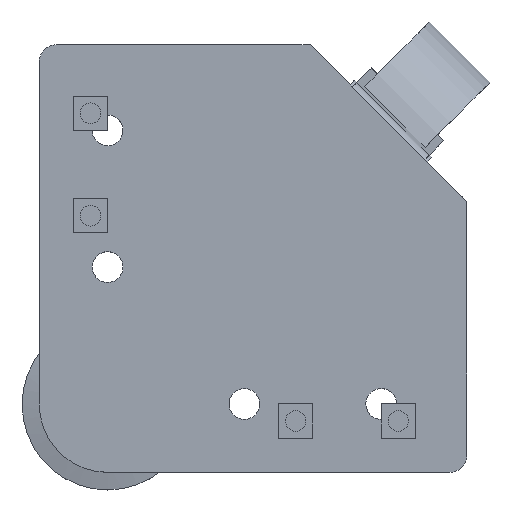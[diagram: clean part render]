
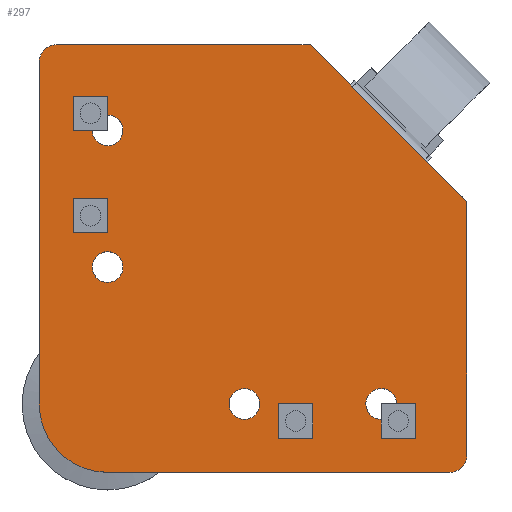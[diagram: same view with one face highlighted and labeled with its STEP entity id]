
A CAD part, top view. The second image highlights one B-rep face of the part: STEP entity #297.
In plain terms, the highlighted planar face has unit normal (0, 0, 1).
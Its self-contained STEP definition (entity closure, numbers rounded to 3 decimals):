
#114=CARTESIAN_POINT('',(86.59,0.79,0.));
#115=VERTEX_POINT('',#114);
#131=CARTESIAN_POINT('',(89.21,3.41,0.));
#132=VERTEX_POINT('',#131);
#139=CARTESIAN_POINT('',(85.,5.,0.0));
#140=DIRECTION('',(0.0,0.0,-1.0));
#141=DIRECTION('',(0.0,1.0,0.0));
#142=AXIS2_PLACEMENT_3D('',#139,#140,#141);
#143=CIRCLE('',#142,4.5);
#144=EDGE_CURVE('',#115,#132,#143,.T.);
#149=CARTESIAN_POINT('',(5.,15.,0.));
#150=DIRECTION('',(0.0,0.0,1.0));
#151=DIRECTION('',(-1.0,0.0,0.0));
#152=AXIS2_PLACEMENT_3D('',#149,#150,#151);
#153=PLANE('',#152);
#154=CARTESIAN_POINT('',(5.,-15.,0.));
#155=VERTEX_POINT('',#154);
#156=CARTESIAN_POINT('',(-15.,5.,0.));
#157=VERTEX_POINT('',#156);
#158=CARTESIAN_POINT('',(5.,5.,0.));
#159=DIRECTION('',(0.0,0.0,-1.0));
#160=DIRECTION('',(0.0,1.0,0.0));
#161=AXIS2_PLACEMENT_3D('',#158,#159,#160);
#162=CIRCLE('',#161,20.);
#163=EDGE_CURVE('',#155,#157,#162,.T.);
#164=ORIENTED_EDGE('',*,*,#163,.F.);
#165=CARTESIAN_POINT('',(105.,-15.,0.));
#166=VERTEX_POINT('',#165);
#167=CARTESIAN_POINT('',(105.,-15.,0.));
#168=DIRECTION('',(-1.0,0.0,0.0));
#169=VECTOR('',#168,100.);
#170=LINE('',#167,#169);
#171=EDGE_CURVE('',#166,#155,#170,.T.);
#172=ORIENTED_EDGE('',*,*,#171,.F.);
#173=CARTESIAN_POINT('',(110.,-10.,0.));
#174=VERTEX_POINT('',#173);
#175=CARTESIAN_POINT('',(105.,-10.,0.));
#176=DIRECTION('',(0.0,0.0,-1.0));
#177=DIRECTION('',(0.0,-1.0,0.0));
#178=AXIS2_PLACEMENT_3D('',#175,#176,#177);
#179=CIRCLE('',#178,5.);
#180=EDGE_CURVE('',#174,#166,#179,.T.);
#181=ORIENTED_EDGE('',*,*,#180,.F.);
#182=CARTESIAN_POINT('',(110.,64.184,0.));
#183=VERTEX_POINT('',#182);
#184=CARTESIAN_POINT('',(110.,64.184,0.));
#185=DIRECTION('',(0.0,-1.0,0.0));
#186=VECTOR('',#185,74.184);
#187=LINE('',#184,#186);
#188=EDGE_CURVE('',#183,#174,#187,.T.);
#189=ORIENTED_EDGE('',*,*,#188,.F.);
#190=CARTESIAN_POINT('',(64.184,110.,0.));
#191=VERTEX_POINT('',#190);
#192=CARTESIAN_POINT('',(64.184,110.,0.));
#193=DIRECTION('',(0.707,-0.707,0.0));
#194=VECTOR('',#193,64.794);
#195=LINE('',#192,#194);
#196=EDGE_CURVE('',#191,#183,#195,.T.);
#197=ORIENTED_EDGE('',*,*,#196,.F.);
#198=CARTESIAN_POINT('',(-10.,110.,0.));
#199=VERTEX_POINT('',#198);
#200=CARTESIAN_POINT('',(-10.,110.,0.));
#201=DIRECTION('',(1.0,0.0,0.0));
#202=VECTOR('',#201,74.184);
#203=LINE('',#200,#202);
#204=EDGE_CURVE('',#199,#191,#203,.T.);
#205=ORIENTED_EDGE('',*,*,#204,.F.);
#206=CARTESIAN_POINT('',(-15.,105.,0.));
#207=VERTEX_POINT('',#206);
#208=CARTESIAN_POINT('',(-10.,105.,0.));
#209=DIRECTION('',(0.0,0.0,-1.0));
#210=DIRECTION('',(0.0,-1.0,0.0));
#211=AXIS2_PLACEMENT_3D('',#208,#209,#210);
#212=CIRCLE('',#211,5.);
#213=EDGE_CURVE('',#207,#199,#212,.T.);
#214=ORIENTED_EDGE('',*,*,#213,.F.);
#215=CARTESIAN_POINT('',(-15.,5.,0.));
#216=DIRECTION('',(0.0,1.0,0.0));
#217=VECTOR('',#216,100.);
#218=LINE('',#215,#217);
#219=EDGE_CURVE('',#157,#207,#218,.T.);
#220=ORIENTED_EDGE('',*,*,#219,.F.);
#221=EDGE_LOOP('',(#164,#172,#181,#189,#197,#205,#214,#220));
#222=FACE_OUTER_BOUND('',#221,.T.);
#223=CARTESIAN_POINT('',(3.5,60.,0.));
#224=VERTEX_POINT('',#223);
#225=CARTESIAN_POINT('',(0.,60.,0.0));
#226=DIRECTION('',(0.0,0.0,-1.0));
#227=DIRECTION('',(1.0,0.0,0.0));
#228=AXIS2_PLACEMENT_3D('',#225,#226,#227);
#229=CIRCLE('',#228,3.5);
#230=EDGE_CURVE('',#224,#224,#229,.T.);
#231=ORIENTED_EDGE('',*,*,#230,.T.);
#232=EDGE_LOOP('',(#231));
#233=FACE_BOUND('',#232,.T.);
#234=CARTESIAN_POINT('',(9.5,45.,0.));
#235=VERTEX_POINT('',#234);
#236=CARTESIAN_POINT('',(5.,45.,0.0));
#237=DIRECTION('',(0.0,0.0,-1.0));
#238=DIRECTION('',(1.0,0.0,0.0));
#239=AXIS2_PLACEMENT_3D('',#236,#237,#238);
#240=CIRCLE('',#239,4.5);
#241=EDGE_CURVE('',#235,#235,#240,.T.);
#242=ORIENTED_EDGE('',*,*,#241,.T.);
#243=EDGE_LOOP('',(#242));
#244=FACE_BOUND('',#243,.T.);
#245=CARTESIAN_POINT('',(3.41,89.21,0.));
#246=VERTEX_POINT('',#245);
#247=CARTESIAN_POINT('',(0.79,86.59,0.));
#248=VERTEX_POINT('',#247);
#249=CARTESIAN_POINT('',(5.,85.,0.0));
#250=DIRECTION('',(0.0,0.0,-1.0));
#251=DIRECTION('',(1.0,0.0,0.0));
#252=AXIS2_PLACEMENT_3D('',#249,#250,#251);
#253=CIRCLE('',#252,4.5);
#254=EDGE_CURVE('',#246,#248,#253,.T.);
#255=ORIENTED_EDGE('',*,*,#254,.T.);
#256=CARTESIAN_POINT('',(0.,90.,0.0));
#257=DIRECTION('',(0.0,0.0,-1.0));
#258=DIRECTION('',(1.0,0.0,0.0));
#259=AXIS2_PLACEMENT_3D('',#256,#257,#258);
#260=CIRCLE('',#259,3.5);
#261=EDGE_CURVE('',#248,#246,#260,.T.);
#262=ORIENTED_EDGE('',*,*,#261,.T.);
#263=EDGE_LOOP('',(#255,#262));
#264=FACE_BOUND('',#263,.T.);
#265=CARTESIAN_POINT('',(60.,3.5,0.));
#266=VERTEX_POINT('',#265);
#267=CARTESIAN_POINT('',(60.,0.,0.0));
#268=DIRECTION('',(0.0,0.0,-1.0));
#269=DIRECTION('',(0.0,1.0,0.0));
#270=AXIS2_PLACEMENT_3D('',#267,#268,#269);
#271=CIRCLE('',#270,3.5);
#272=EDGE_CURVE('',#266,#266,#271,.T.);
#273=ORIENTED_EDGE('',*,*,#272,.T.);
#274=EDGE_LOOP('',(#273));
#275=FACE_BOUND('',#274,.T.);
#276=ORIENTED_EDGE('',*,*,#144,.T.);
#277=CARTESIAN_POINT('',(90.,0.,0.0));
#278=DIRECTION('',(0.0,0.0,-1.0));
#279=DIRECTION('',(0.0,1.0,0.0));
#280=AXIS2_PLACEMENT_3D('',#277,#278,#279);
#281=CIRCLE('',#280,3.5);
#282=EDGE_CURVE('',#132,#115,#281,.T.);
#283=ORIENTED_EDGE('',*,*,#282,.T.);
#284=EDGE_LOOP('',(#276,#283));
#285=FACE_BOUND('',#284,.T.);
#286=CARTESIAN_POINT('',(45.,9.5,0.));
#287=VERTEX_POINT('',#286);
#288=CARTESIAN_POINT('',(45.,5.,0.0));
#289=DIRECTION('',(0.0,0.0,-1.0));
#290=DIRECTION('',(0.0,1.0,0.0));
#291=AXIS2_PLACEMENT_3D('',#288,#289,#290);
#292=CIRCLE('',#291,4.5);
#293=EDGE_CURVE('',#287,#287,#292,.T.);
#294=ORIENTED_EDGE('',*,*,#293,.T.);
#295=EDGE_LOOP('',(#294));
#296=FACE_BOUND('',#295,.T.);
#297=ADVANCED_FACE('',(#222,#233,#244,#264,#275,#285,#296),#153,.T.);
